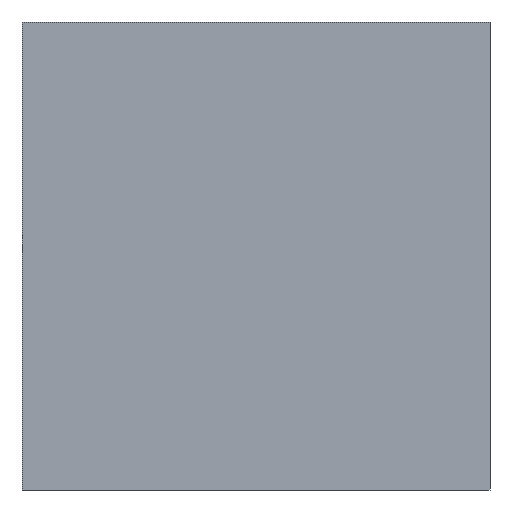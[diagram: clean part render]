
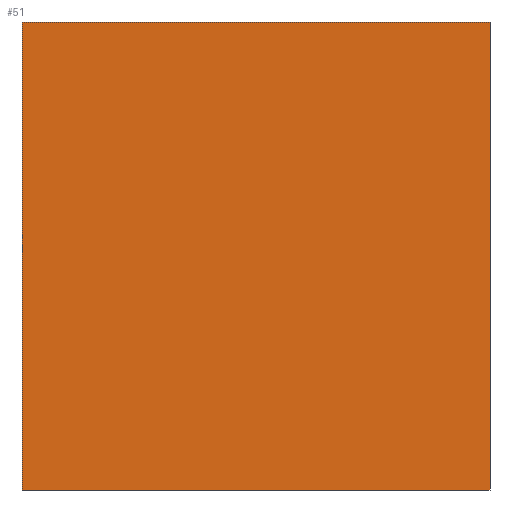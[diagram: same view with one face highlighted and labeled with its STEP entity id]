
A CAD part, left-side view. The second image highlights one B-rep face of the part: STEP entity #51.
In plain terms, the highlighted planar face has unit normal (-1, 0, 0).
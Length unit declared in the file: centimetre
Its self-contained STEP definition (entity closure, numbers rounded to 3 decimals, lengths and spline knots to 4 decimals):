
#19 = EDGE_CURVE ( 'NONE', #849, #796, #952, .T. ) ;
#51 = ADVANCED_FACE ( 'NONE', ( #559 ), #1034, .F. ) ;
#56 = DIRECTION ( 'NONE',  ( 0., -1., 0. ) ) ;
#61 = VECTOR ( 'NONE', #808, 100. ) ;
#108 = VECTOR ( 'NONE', #156, 100. ) ;
#137 = CARTESIAN_POINT ( 'NONE',  ( 0., 1000., 1000. ) ) ;
#141 = DIRECTION ( 'NONE',  ( 1., 0., 0. ) ) ;
#147 = ORIENTED_EDGE ( 'NONE', *, *, #624, .T. ) ;
#156 = DIRECTION ( 'NONE',  ( 0., 0., -1. ) ) ;
#162 = CARTESIAN_POINT ( 'NONE',  ( 0., 1000., 1000. ) ) ;
#189 = CARTESIAN_POINT ( 'NONE',  ( 0., 1000., 1000. ) ) ;
#232 = CARTESIAN_POINT ( 'NONE',  ( 0., 0., 1000. ) ) ;
#250 = CARTESIAN_POINT ( 'NONE',  ( 0., 1000., 0. ) ) ;
#371 = AXIS2_PLACEMENT_3D ( 'NONE', #162, #141, #457 ) ;
#377 = EDGE_LOOP ( 'NONE', ( #147, #787, #491, #766 ) ) ;
#437 = VECTOR ( 'NONE', #56, 100. ) ;
#441 = CARTESIAN_POINT ( 'NONE',  ( 0., 0., 1000. ) ) ;
#457 = DIRECTION ( 'NONE',  ( 0., 0., -1. ) ) ;
#463 = CARTESIAN_POINT ( 'NONE',  ( 0., 1000., 1000. ) ) ;
#482 = VECTOR ( 'NONE', #604, 100. ) ;
#489 = VERTEX_POINT ( 'NONE', #1031 ) ;
#491 = ORIENTED_EDGE ( 'NONE', *, *, #784, .F. ) ;
#495 = VERTEX_POINT ( 'NONE', #232 ) ;
#559 = FACE_OUTER_BOUND ( 'NONE', #377, .T. ) ;
#604 = DIRECTION ( 'NONE',  ( 0., 0., -1. ) ) ;
#624 = EDGE_CURVE ( 'NONE', #796, #489, #975, .T. ) ;
#676 = CARTESIAN_POINT ( 'NONE',  ( 0., 1000., 0. ) ) ;
#710 = LINE ( 'NONE', #137, #437 ) ;
#766 = ORIENTED_EDGE ( 'NONE', *, *, #19, .T. ) ;
#784 = EDGE_CURVE ( 'NONE', #849, #495, #710, .T. ) ;
#787 = ORIENTED_EDGE ( 'NONE', *, *, #1012, .F. ) ;
#796 = VERTEX_POINT ( 'NONE', #676 ) ;
#808 = DIRECTION ( 'NONE',  ( 0., -1., 0. ) ) ;
#849 = VERTEX_POINT ( 'NONE', #189 ) ;
#891 = LINE ( 'NONE', #441, #482 ) ;
#952 = LINE ( 'NONE', #463, #108 ) ;
#975 = LINE ( 'NONE', #250, #61 ) ;
#1012 = EDGE_CURVE ( 'NONE', #495, #489, #891, .T. ) ;
#1031 = CARTESIAN_POINT ( 'NONE',  ( 0., 0., 0. ) ) ;
#1034 = PLANE ( 'NONE',  #371 ) ;
